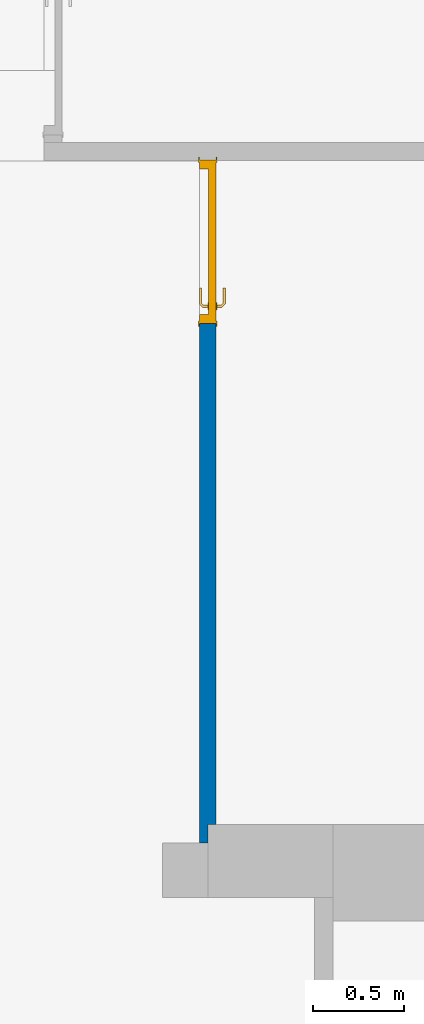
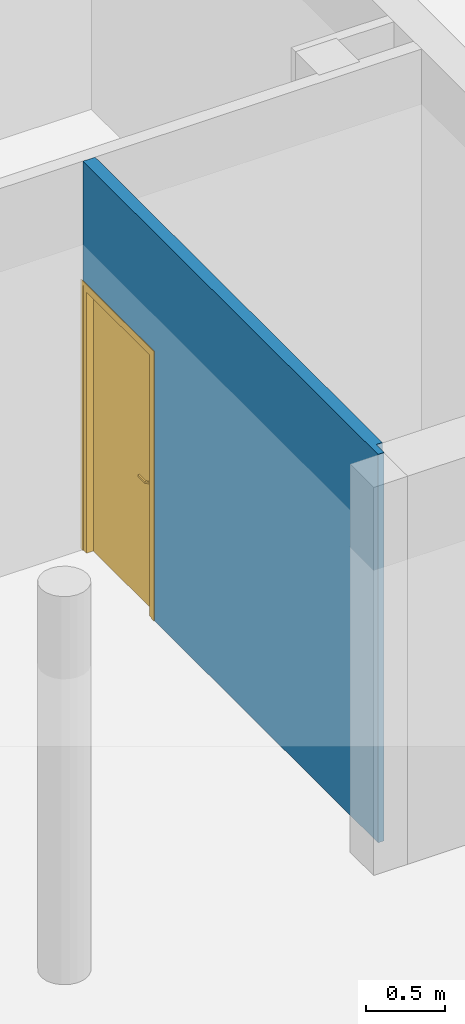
# One storey, part 49 of 97: 1 door, 1 wall, 1 opening.
"""IFC4 building model written with IfcOpenShell, lengths in metres."""

from ifc_helpers import new_model, entity, si_unit, converted_unit, derived_unit, direction, frame, origin, place, context, subcontext, project, spatial, indexed_curve, outline, extrude, polygons, source, transform, mapped, material, material_list, layer, layer_set, constituent, constituent_set, type_object, type_shapes, element, fill, save


model = new_model("IFC4")

# Units and contexts
model_context = context("Model", 3, precision=1e-05, world=origin(), true_north=direction((6.12303176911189e-17, 1.0)))
body_context = subcontext(model_context, "Body", "Model", "MODEL_VIEW")
ifc_project = project(units=[si_unit("LENGTHUNIT", "METRE"), si_unit("AREAUNIT", "SQUARE_METRE"), si_unit("VOLUMEUNIT", "CUBIC_METRE"), converted_unit("PLANEANGLEUNIT", "DEGREE", entity("IfcRatioMeasure", 0.0174532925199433), si_unit("PLANEANGLEUNIT", "RADIAN"), dimensions=[0, 0, 0, 0, 0, 0, 0]), si_unit("MASSUNIT", "GRAM", prefix="KILO"), derived_unit("MASSDENSITYUNIT", [(si_unit("MASSUNIT", "GRAM", prefix="KILO"), 1), (si_unit("LENGTHUNIT", "METRE"), -3)]), derived_unit("MOMENTOFINERTIAUNIT", [(si_unit("LENGTHUNIT", "METRE"), 4)]), si_unit("TIMEUNIT", "SECOND"), si_unit("FREQUENCYUNIT", "HERTZ"), si_unit("THERMODYNAMICTEMPERATUREUNIT", "DEGREE_CELSIUS"), derived_unit("THERMALTRANSMITTANCEUNIT", [(si_unit("MASSUNIT", "GRAM", prefix="KILO"), 1), (si_unit("THERMODYNAMICTEMPERATUREUNIT", "KELVIN"), -1), (si_unit("TIMEUNIT", "SECOND"), -3)]), derived_unit("VOLUMETRICFLOWRATEUNIT", [(si_unit("LENGTHUNIT", "METRE"), 3), (si_unit("TIMEUNIT", "SECOND"), -1)]), si_unit("ELECTRICCURRENTUNIT", "AMPERE"), si_unit("ELECTRICVOLTAGEUNIT", "VOLT"), si_unit("POWERUNIT", "WATT"), si_unit("FORCEUNIT", "NEWTON", prefix="KILO"), si_unit("ILLUMINANCEUNIT", "LUX"), si_unit("LUMINOUSFLUXUNIT", "LUMEN"), si_unit("LUMINOUSINTENSITYUNIT", "CANDELA"), derived_unit("USERDEFINED", [(si_unit("MASSUNIT", "GRAM", prefix="KILO"), -1), (si_unit("LENGTHUNIT", "METRE"), -2), (si_unit("TIMEUNIT", "SECOND"), 3), (si_unit("LUMINOUSFLUXUNIT", "LUMEN"), 1)]), derived_unit("LINEARVELOCITYUNIT", [(si_unit("LENGTHUNIT", "METRE"), 1), (si_unit("TIMEUNIT", "SECOND"), -1)]), si_unit("PRESSUREUNIT", "PASCAL"), derived_unit("USERDEFINED", [(si_unit("LENGTHUNIT", "METRE"), -2), (si_unit("MASSUNIT", "GRAM", prefix="KILO"), 1), (si_unit("TIMEUNIT", "SECOND"), -2)]), derived_unit("LINEARFORCEUNIT", [(si_unit("MASSUNIT", "GRAM", prefix="KILO"), 1), (si_unit("LENGTHUNIT", "METRE"), 1), (si_unit("TIMEUNIT", "SECOND"), -2), (si_unit("LENGTHUNIT", "METRE"), -1)]), derived_unit("PLANARFORCEUNIT", [(si_unit("MASSUNIT", "GRAM", prefix="KILO"), 1), (si_unit("LENGTHUNIT", "METRE"), 1), (si_unit("TIMEUNIT", "SECOND"), -2), (si_unit("LENGTHUNIT", "METRE"), -2)])], contexts=[model_context])

# Site, building, storey
site_placement = place(None, origin())
site = spatial("IfcSite", under=ifc_project, at=site_placement, Name="Default", CompositionType="ELEMENT")
building_placement = place(site_placement, origin())
building = spatial("IfcBuilding", under=site, at=building_placement, Name="HOTEL CONSULAIRE BOULOGNE SUR MER", CompositionType="ELEMENT")
storey_placement = place(building_placement, frame((0.0, 0.0, 3.62152697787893)))
storey = spatial("IfcBuildingStorey", under=building, at=storey_placement, Name="Niveau 1", CompositionType="ELEMENT", Elevation=3.62152697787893)

# Wall, opening, door
ifc_material_1 = material(Name="Mur par défaut", Category="Divers")
ifc_layer = layer(ifc_material_1, 0.09, Name="Mur par défaut", Category="Divers")
ifc_layer_set = layer_set([ifc_layer], Name="Mur de base:Générique - Int. 90")
wall_type = type_object("IfcWallType", Name="Mur de base:Générique - Int. 90", PredefinedType="NOTDEFINED", material=ifc_layer_set)
wall_placement = place(storey_placement, frame((9.63644692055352, -19.6209366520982, 0.0), z_axis=(0.0, 0.0, 1.0), x_axis=(0.0, 1.0, 0.0)))
wall = element("IfcWall", 1, at=wall_placement, inside=storey, type_object=wall_type, material=ifc_layer_set, Name="Mur de base:Générique - Int. 90", ObjectType="Mur de base:Générique - Int. 90", PredefinedType="NOTDEFINED", context=body_context, shape_type="Tessellation", body=[
    polygons([(3.75002684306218, -0.0450000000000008, 3.01321454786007), (0.0999999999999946, -0.0450000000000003, 3.01321454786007), (0.0999999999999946, -0.0450000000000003, 5.41433564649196e-16), (2.85402684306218, -0.0450000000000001, 5.41433564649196e-16), (2.85402684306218, -0.0450000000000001, 2.075), (3.75002684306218, -0.0450000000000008, 2.075), (0.0, 0.0449999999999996, 3.01321454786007), (3.75002684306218, 0.0449999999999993, 3.01321454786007), (3.75002684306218, 0.0449999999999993, 2.075), (2.85402684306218, 0.045, 2.075), (2.85402684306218, 0.045, 5.41433564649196e-16), (0.0, 0.0449999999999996, 5.41433564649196e-16), (0.0, 9.52821595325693e-17, 3.01321454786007), (0.0999999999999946, 2.6036465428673e-16, 3.01321454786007), (0.0999999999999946, 2.6036465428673e-16, 3.0102145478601), (0.0999999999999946, 2.6036465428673e-16, 5.41433564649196e-16), (0.0, 9.52821595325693e-17, 3.0102145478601), (0.0, 9.52821595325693e-17, 5.41433564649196e-16)], [[[2, 3, 4, 5, 6, 1]], [[17, 18, 16, 15, 14, 13]], [[10, 11, 12, 7, 8, 9]], [[1, 8, 7, 13, 14, 2]], [[15, 16, 3, 2, 14]], [[7, 12, 18, 17, 13]], [[1, 6, 9, 8]], [[10, 5, 4, 11]], [[10, 9, 6, 5]], [[18, 12, 11, 4, 3, 16]]], closed=True),
])
opening_placement = place(wall_placement, frame((3.75402684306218, 0.0449999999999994, 0.0)))
opening = element("IfcOpeningElement", 2, at=opening_placement, cuts=wall, Name="Int. Simple:PP (0.83m x 2.04m):1", ObjectType="Opening", PredefinedType="OPENING", context=body_context, shape_type="SweptSolid", body=[
    extrude(outline(indexed_curve([(0.0, -1.11726504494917e-30), (2.075, -1.11726504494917e-30), (2.075, 0.900000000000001), (0.0, 0.900000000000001), (0.0, -1.11726504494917e-30)], self_intersect=False)), frame((0.0, 0.0, 0.0), z_axis=(0.0, -1.0, 0.0), x_axis=(0.0, 0.0, 1.0)), (0.0, 0.0, 1.0), 0.09),
])
ifc_material_2 = material(Name="Finition Peinture - Blanc satiné", Category="Peinture")
ifc_constituent_1 = constituent(ifc_material_2, Name="Finition Peinture - Blanc satiné", Category="Matériaux")
ifc_material_3 = material(Name="Bois - Panneau de porte", Category="Bois")
ifc_constituent_2 = constituent(ifc_material_3, Name="Bois - Panneau de porte", Category="Matériaux")
ifc_material_4 = material(Name="Bois - Cadre de porte", Category="Bois")
ifc_constituent_3 = constituent(ifc_material_4, Name="Bois - Cadre de porte", Category="Matériaux")
ifc_constituent_set = constituent_set(constituents=[ifc_constituent_1, ifc_constituent_2, ifc_constituent_3], Name="MaterialConstituentSet")
ifc_material_list = material_list([ifc_material_4, ifc_material_3, ifc_material_4, ifc_material_2])
door_type = type_object("IfcDoorType", Name="Int. Simple:PP (0.83m x 2.04m)", OperationType="NOTDEFINED", PredefinedType="DOOR", material=ifc_material_list)
shared_shape = source(origin(), body_context, "Body", "Tessellation", [
    polygons([(0.0750000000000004, -0.00500000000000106, 0.870000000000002), (0.0846472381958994, -0.00500000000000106, 0.866003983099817), (0.0950000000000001, -0.00500000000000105, 0.86464101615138), (0.105352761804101, -0.00500000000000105, 0.866003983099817), (0.115, -0.00500000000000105, 0.870000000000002), (0.114999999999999, -0.00500000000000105, 1.08), (0.1053527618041, -0.00500000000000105, 1.08399601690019), (0.094999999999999, -0.00500000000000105, 1.08535898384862), (0.0846472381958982, -0.00500000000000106, 1.08399601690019), (0.0749999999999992, -0.00500000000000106, 1.08), (0.0749999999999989, -1.06594733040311e-15, 0.870000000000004), (0.0749999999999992, -1.06594733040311e-15, 1.08), (0.0846472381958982, -1.06594733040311e-15, 1.08399601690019), (0.094999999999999, -1.05748743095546e-15, 1.08535898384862), (0.1053527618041, -1.05748743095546e-15, 1.08399601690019), (0.114999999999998, -1.04902753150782e-15, 1.08), (0.115, -1.04902753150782e-15, 0.870000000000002), (0.105352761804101, -1.05748743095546e-15, 0.866003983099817), (0.0950000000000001, -1.05748743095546e-15, 0.86464101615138), (0.0846472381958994, -1.06594733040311e-15, 0.866003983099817)], [[[4, 5, 6, 7, 8, 9, 10, 1, 2, 3]], [[15, 16, 17, 18, 19, 20, 11, 12, 13, 14]], [[11, 20, 2, 1]], [[2, 20, 19, 3]], [[19, 18, 4, 3]], [[18, 17, 5, 4]], [[6, 5, 17, 16]], [[16, 15, 7, 6]], [[7, 15, 14, 8]], [[14, 13, 9, 8]], [[13, 12, 10, 9]], [[1, 10, 12, 11]]], closed=True),
    polygons([(0.114999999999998, 0.0399999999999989, 1.08), (0.105352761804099, 0.0399999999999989, 1.08399601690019), (0.0949999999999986, 0.0399999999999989, 1.08535898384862), (0.084647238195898, 0.0399999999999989, 1.08399601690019), (0.0749999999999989, 0.0399999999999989, 1.08), (0.0750000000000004, 0.0399999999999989, 0.870000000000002), (0.0846472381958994, 0.0399999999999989, 0.866003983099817), (0.0950000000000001, 0.0399999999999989, 0.86464101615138), (0.105352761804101, 0.0399999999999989, 0.866003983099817), (0.115, 0.0399999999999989, 0.870000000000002), (0.114999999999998, 0.0449999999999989, 1.08), (0.115, 0.0449999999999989, 0.870000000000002), (0.105352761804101, 0.0449999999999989, 0.866003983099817), (0.0950000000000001, 0.0449999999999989, 0.86464101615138), (0.0846472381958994, 0.0449999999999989, 0.866003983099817), (0.0749999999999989, 0.0449999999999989, 0.870000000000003), (0.0749999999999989, 0.0449999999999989, 1.08), (0.084647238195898, 0.0449999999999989, 1.08399601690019), (0.0949999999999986, 0.0449999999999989, 1.08535898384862), (0.105352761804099, 0.0449999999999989, 1.08399601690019)], [[[9, 10, 1, 2, 3, 4, 5, 6, 7, 8]], [[20, 11, 12, 13, 14, 15, 16, 17, 18, 19]], [[11, 20, 2, 1]], [[2, 20, 19, 3]], [[19, 18, 4, 3]], [[18, 17, 5, 4]], [[6, 5, 17, 16]], [[16, 15, 7, 6]], [[7, 15, 14, 8]], [[14, 13, 9, 8]], [[13, 12, 10, 9]], [[1, 10, 12, 11]]], closed=True),
    polygons([(0.0889999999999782, -0.00500000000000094, 1.007), (0.0929747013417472, -0.00500000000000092, 1.00778044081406), (0.0970252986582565, -0.0050000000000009, 1.00778044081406), (0.101000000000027, -0.00500000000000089, 1.00699999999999), (0.101000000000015, -0.00500000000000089, 0.993000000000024), (0.0970252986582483, -0.0050000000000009, 0.992219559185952), (0.0929747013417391, -0.00500000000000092, 0.99221955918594), (0.0889999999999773, -0.00500000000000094, 0.992999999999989), (0.0889999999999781, -0.0326509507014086, 1.007), (0.092974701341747, -0.0310045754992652, 1.00778044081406), (0.0970252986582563, -0.0293267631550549, 1.00778044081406), (0.101000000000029, -0.0276803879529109, 1.007), (0.101000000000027, -0.0276803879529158, 0.993000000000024), (0.0970252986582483, -0.0293267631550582, 0.992219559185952), (0.0929747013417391, -0.0310045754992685, 0.99221955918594), (0.0889999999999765, -0.0326509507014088, 0.992999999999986), (0.107377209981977, -0.0510281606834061, 1.007), (0.10902358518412, -0.0470534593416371, 1.00778044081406), (0.110701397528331, -0.0430028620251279, 1.00778044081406), (0.112347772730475, -0.0390281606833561, 1.007), (0.112347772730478, -0.0390281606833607, 0.993000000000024), (0.110701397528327, -0.0430028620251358, 0.992219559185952), (0.109023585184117, -0.047053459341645, 0.99221955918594), (0.107377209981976, -0.0510281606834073, 0.992999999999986), (0.195018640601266, -0.0510281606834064, 1.00699999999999), (0.195018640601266, -0.0510281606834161, 0.992999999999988), (0.195018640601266, -0.0470534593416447, 0.99221955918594), (0.195018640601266, -0.0430028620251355, 0.992219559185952), (0.195018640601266, -0.039028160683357, 0.993000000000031), (0.195018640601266, -0.0390281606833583, 1.007), (0.195018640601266, -0.0430028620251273, 1.00778044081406), (0.195018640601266, -0.0470534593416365, 1.00778044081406), (0.147307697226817, -0.0510281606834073, 1.007), (0.152860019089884, -0.045028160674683, 1.0078786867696), (0.15368320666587, -0.039028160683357, 1.007), (0.147307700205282, -0.0510281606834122, 0.992999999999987), (0.152860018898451, -0.0450281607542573, 0.992121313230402), (0.153683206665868, -0.039028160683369, 0.993000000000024)], [[[2, 3, 4, 5, 6, 7, 8, 1]], [[21, 20, 35, 30, 29, 38]], [[9, 10, 2, 1]], [[10, 18, 19, 11, 3, 2]], [[11, 12, 4, 3]], [[5, 4, 12, 13]], [[26, 27, 28, 29, 30, 31, 32, 25]], [[13, 14, 6, 5]], [[14, 22, 23, 15, 7, 6]], [[15, 16, 8, 7]], [[1, 8, 16, 9]], [[17, 18, 10, 9]], [[19, 20, 12, 11]], [[13, 12, 20, 21]], [[21, 22, 14, 13]], [[23, 24, 16, 15]], [[9, 16, 24, 17]], [[33, 32, 34]], [[25, 32, 33]], [[18, 17, 33]], [[34, 35, 19]], [[20, 19, 35]], [[35, 31, 30]], [[32, 31, 34]], [[31, 35, 34]], [[18, 33, 34]], [[18, 34, 19]], [[38, 28, 37]], [[36, 37, 27]], [[21, 38, 22]], [[38, 29, 28]], [[26, 36, 27]], [[24, 23, 36]], [[36, 23, 37]], [[23, 22, 37]], [[22, 38, 37]], [[27, 37, 28]], [[17, 24, 36, 26, 25, 33]]], closed=True),
    polygons([(0.10100000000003, 0.0449999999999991, 0.993000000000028), (0.101000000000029, 0.0449999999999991, 1.007), (0.0970252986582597, 0.0449999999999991, 1.00778044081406), (0.0929747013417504, 0.0449999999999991, 1.00778044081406), (0.0889999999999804, 0.044999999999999, 1.007), (0.0889999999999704, 0.044999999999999, 0.992999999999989), (0.0929747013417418, 0.0449999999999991, 0.99221955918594), (0.0970252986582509, 0.0449999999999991, 0.992219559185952), (0.10100000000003, 0.067485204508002, 0.993000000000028), (0.10100000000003, 0.0674852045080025, 1.007), (0.0970252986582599, 0.0691315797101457, 1.00778044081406), (0.0929747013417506, 0.070809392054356, 1.00778044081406), (0.0889999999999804, 0.0724557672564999, 1.007), (0.0889999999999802, 0.072455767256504, 0.992999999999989), (0.0929747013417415, 0.0708093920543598, 0.99221955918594), (0.0970252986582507, 0.0691315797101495, 0.992219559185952), (0.112485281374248, 0.0789704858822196, 0.993000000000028), (0.112485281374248, 0.0789704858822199, 1.007), (0.110838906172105, 0.0829451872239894, 1.00778044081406), (0.109161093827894, 0.0869957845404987, 1.00778044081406), (0.107514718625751, 0.0909704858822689, 1.007), (0.107514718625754, 0.090970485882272, 0.992999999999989), (0.109161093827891, 0.0869957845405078, 0.99221955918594), (0.110838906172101, 0.0829451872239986, 0.992219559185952), (0.195045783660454, 0.0789704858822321, 0.993000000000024), (0.195045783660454, 0.0829451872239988, 0.992219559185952), (0.195045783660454, 0.086995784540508, 0.99221955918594), (0.195045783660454, 0.0909704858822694, 0.992999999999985), (0.195045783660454, 0.0909704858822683, 1.007), (0.195045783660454, 0.0869957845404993, 1.00778044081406), (0.195045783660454, 0.0829451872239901, 1.00778044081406), (0.195045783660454, 0.0789704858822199, 1.007), (0.147445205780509, 0.0909704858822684, 1.007), (0.152942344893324, 0.0849704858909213, 1.0078786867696), (0.153765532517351, 0.0789704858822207, 1.007), (0.147445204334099, 0.0909704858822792, 0.992999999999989), (0.152942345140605, 0.0849704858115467, 0.992121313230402), (0.153765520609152, 0.0789704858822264, 0.993000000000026)], [[[4, 5, 6, 7, 8, 1, 2, 3]], [[18, 17, 38, 25, 32, 35]], [[2, 1, 9, 10]], [[25, 26, 27, 28, 29, 30, 31, 32]], [[10, 11, 3, 2]], [[11, 19, 20, 12, 4, 3]], [[12, 13, 5, 4]], [[6, 5, 13, 14]], [[14, 15, 7, 6]], [[15, 23, 24, 16, 8, 7]], [[16, 9, 1, 8]], [[10, 9, 17, 18]], [[18, 19, 11, 10]], [[20, 21, 13, 12]], [[14, 13, 21, 22]], [[22, 23, 15, 14]], [[24, 17, 9, 16]], [[35, 31, 34]], [[33, 34, 30]], [[18, 35, 19]], [[35, 32, 31]], [[29, 33, 30]], [[21, 20, 33]], [[33, 20, 34]], [[20, 19, 34]], [[19, 35, 34]], [[30, 34, 31]], [[21, 33, 29, 28, 36, 22]], [[36, 27, 37]], [[28, 27, 36]], [[23, 22, 36]], [[37, 38, 24]], [[17, 24, 38]], [[38, 26, 25]], [[27, 26, 37]], [[26, 38, 37]], [[23, 36, 37]], [[23, 37, 24]]], closed=True),
    polygons([(0.034999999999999, 0.04, 2.04), (0.865, 0.04, 2.04), (0.864999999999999, 0.04, 0.0), (0.034999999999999, 0.04, 0.0), (0.034999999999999, 3.38395977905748e-17, 2.04), (0.034999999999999, 3.38395977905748e-17, 0.0), (0.864999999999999, 3.38395977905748e-17, 0.0), (0.865, 3.38395977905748e-17, 2.04)], [[[4, 1, 2, 3]], [[7, 8, 5, 6]], [[2, 1, 5, 8]], [[3, 2, 8, 7]], [[4, 3, 7, 6]], [[1, 4, 6, 5]]], closed=True),
    polygons([(-1.54308565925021e-14, 8.45989944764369e-18, 0.0), (-1.54308565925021e-14, 0.090000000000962, 0.0), (0.0499999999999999, 0.090000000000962, 0.0), (0.0499999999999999, 0.0400000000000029, 0.0), (0.0349999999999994, 0.0400000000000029, 0.0), (0.0349999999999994, 8.45989944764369e-18, 0.0), (-1.53631773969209e-14, 8.45989944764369e-18, 2.07500000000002), (-1.53631773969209e-14, 0.090000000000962, 2.07500000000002), (0.900000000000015, 0.090000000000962, 2.07500000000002), (0.900000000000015, 0.090000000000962, 9.23443718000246e-25), (0.85, 0.090000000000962, 6.02669015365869e-24), (0.85, 0.090000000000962, 2.025), (0.05, 0.090000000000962, 2.025), (0.05, 0.0400000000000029, 2.025), (0.85, 0.0400000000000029, 2.025), (0.85, 0.0400000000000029, 1.99209609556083e-25), (0.865, 0.0400000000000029, 1.51399294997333e-24), (0.865000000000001, 0.0400000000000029, 2.04), (0.0349999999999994, 0.0400000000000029, 2.04), (0.0349999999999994, 8.45989944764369e-18, 2.04), (0.865, 8.45989944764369e-18, 2.04), (0.865, 8.45989944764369e-18, 3.40121094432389e-24), (0.900000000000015, 8.45989944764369e-18, 1.81925185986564e-24), (0.900000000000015, 8.45989944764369e-18, 2.07500000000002)], [[[5, 6, 1, 2, 3, 4]], [[11, 10, 23, 22, 17, 16]], [[14, 13, 12, 15]], [[20, 19, 18, 21]], [[2, 1, 7, 8]], [[15, 12, 11, 16]], [[21, 18, 17, 22]], [[3, 2, 8, 9, 10, 11, 12, 13]], [[4, 3, 13, 14]], [[6, 5, 19, 20]], [[9, 24, 23, 10]], [[16, 17, 18, 19, 5, 4, 14, 15]], [[22, 23, 24, 7, 1, 6, 20, 21]], [[8, 7, 24, 9]]], closed=True),
    polygons([(0.0149999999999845, 0.090000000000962, 1.35358391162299e-16), (-0.0150000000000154, 0.090000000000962, 1.35358391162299e-16), (-0.0150000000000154, 0.095000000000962, 1.35358391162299e-16), (0.0149999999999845, 0.095000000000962, 1.35358391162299e-16), (0.0149999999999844, 0.090000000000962, 2.06000000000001), (0.884999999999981, 0.090000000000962, 2.06000000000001), (0.88499999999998, 0.090000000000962, 5.09144897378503e-24), (0.91499999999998, 0.090000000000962, -5.44393448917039e-24), (0.91499999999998, 0.090000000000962, 2.09000000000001), (-0.0150000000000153, 0.090000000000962, 2.09000000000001), (-0.0150000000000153, 0.095000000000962, 2.09000000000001), (0.91499999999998, 0.095000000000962, 2.09000000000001), (0.91499999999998, 0.095000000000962, 5.03766794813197e-24), (0.88499999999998, 0.095000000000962, -1.89153776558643e-24), (0.88499999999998, 0.095000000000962, 2.06000000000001), (0.0149999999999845, 0.095000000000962, 2.06000000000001)], [[[1, 2, 3, 4]], [[14, 13, 8, 7]], [[5, 16, 15, 6]], [[7, 8, 9, 10, 2, 1, 5, 6]], [[3, 2, 10, 11]], [[6, 15, 14, 7]], [[4, 3, 11, 12, 13, 14, 15, 16]], [[1, 4, 16, 5]], [[12, 9, 8, 13]], [[11, 10, 9, 12]]], closed=True),
    polygons([(0.0149999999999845, -0.00500000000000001, 1.35358391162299e-16), (-0.0150000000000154, -0.00500000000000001, 1.35358391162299e-16), (-0.0150000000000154, 8.45989944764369e-18, 1.35358391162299e-16), (0.0149999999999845, 8.45989944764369e-18, 1.35358391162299e-16), (0.88499999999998, -0.00500000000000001, -1.35358391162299e-16), (0.88499999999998, 8.45989944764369e-18, -1.35358391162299e-16), (0.91499999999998, 8.45989944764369e-18, -1.35358391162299e-16), (0.91499999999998, -0.00500000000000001, -1.35358391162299e-16), (0.0149999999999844, -0.00500000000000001, 2.06000000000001), (0.884999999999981, -0.00500000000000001, 2.06000000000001), (0.91499999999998, -0.00500000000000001, 2.09000000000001), (-0.0150000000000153, -0.00500000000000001, 2.09000000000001), (-0.0150000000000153, 8.45989944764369e-18, 2.09000000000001), (0.91499999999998, 8.45989944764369e-18, 2.09000000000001), (0.88499999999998, 8.45989944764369e-18, 2.06000000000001), (0.0149999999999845, 8.45989944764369e-18, 2.06000000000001)], [[[1, 2, 3, 4]], [[6, 7, 8, 5]], [[9, 16, 15, 10]], [[5, 8, 11, 12, 2, 1, 9, 10]], [[3, 2, 12, 13]], [[10, 15, 6, 5]], [[4, 3, 13, 14, 7, 6, 15, 16]], [[1, 4, 16, 9]], [[14, 11, 8, 7]], [[13, 12, 11, 14]]], closed=True),
])
type_shapes(door_type, [shared_shape])
door_placement = place(opening_placement, frame((-0.900000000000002, -0.0900000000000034, 0.0)))
door = element("IfcDoor", 3, at=door_placement, inside=storey, type_object=door_type, material=ifc_constituent_set, Name="Int. Simple:PP (0.83m x 2.04m)", ObjectType="Int. Simple:PP (0.83m x 2.04m)", OperationType="NOTDEFINED", OverallHeight=2.075, OverallWidth=0.900000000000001, PredefinedType="DOOR", context=body_context, shape_type="MappedRepresentation", body=[
    mapped(shared_shape, transform((0.0, 0.0, 0.0), scale=1.0)),
])
fill(opening, door)

save(model, "model.ifc")
